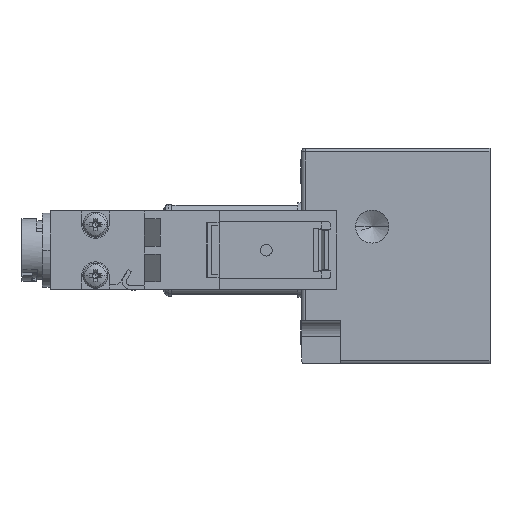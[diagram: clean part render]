
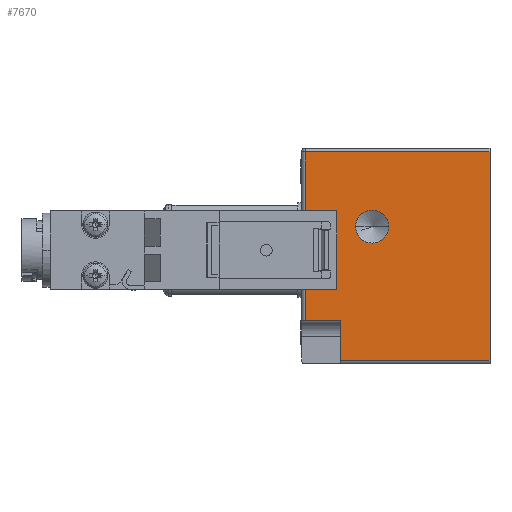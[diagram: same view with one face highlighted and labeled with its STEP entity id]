
A CAD part, left-side view. The second image highlights one B-rep face of the part: STEP entity #7670.
In plain terms, the highlighted planar face has unit normal (-1, 0, 0).
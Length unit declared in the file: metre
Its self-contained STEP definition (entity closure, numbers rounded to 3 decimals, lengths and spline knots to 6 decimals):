
#131 = DIRECTION ( 'NONE',  ( 0., 0., -1. ) ) ;
#413 = DIRECTION ( 'NONE',  ( 0., 1., 0. ) ) ;
#1442 = DIRECTION ( 'NONE',  ( 0., -1., 0. ) ) ;
#1998 = VERTEX_POINT ( 'NONE', #8689 ) ;
#2433 = VERTEX_POINT ( 'NONE', #18515 ) ;
#2670 = EDGE_CURVE ( 'NONE', #9093, #12384, #12615, .T. ) ;
#3296 = CARTESIAN_POINT ( 'NONE',  ( -0.0225, -0.0111, 0.003 ) ) ;
#3747 = DIRECTION ( 'NONE',  ( -1., 0., 0. ) ) ;
#3765 = ORIENTED_EDGE ( 'NONE', *, *, #15356, .T. ) ;
#3989 = PLANE ( 'NONE',  #13630 ) ;
#4082 = EDGE_CURVE ( 'NONE', #2433, #18274, #9530, .T. ) ;
#4414 = CARTESIAN_POINT ( 'NONE',  ( -0.0225, -0.024, -0.00075 ) ) ;
#4579 = DIRECTION ( 'NONE',  ( 0., 0., 1. ) ) ;
#4863 = EDGE_CURVE ( 'NONE', #14959, #18077, #17512, .T. ) ;
#5765 = CARTESIAN_POINT ( 'NONE',  ( -0.0225, -0.01225, -0.009 ) ) ;
#6150 = EDGE_CURVE ( 'NONE', #18274, #2433, #15085, .T. ) ;
#6632 = EDGE_CURVE ( 'NONE', #1998, #9093, #13655, .T. ) ;
#7094 = DIRECTION ( 'NONE',  ( -1., 0., 0. ) ) ;
#7293 = ORIENTED_EDGE ( 'NONE', *, *, #6632, .T. ) ;
#7581 = LINE ( 'NONE', #18399, #18600 ) ;
#7670 = ADVANCED_FACE ( 'NONE', ( #10137, #17162 ), #3989, .T. ) ;
#7758 = DIRECTION ( 'NONE',  ( 0., -1., 0. ) ) ;
#8689 = CARTESIAN_POINT ( 'NONE',  ( -0.0225, -0.005, -0.014 ) ) ;
#8918 = CARTESIAN_POINT ( 'NONE',  ( -0.0225, -0.0005, -0.009 ) ) ;
#9093 = VERTEX_POINT ( 'NONE', #16572 ) ;
#9223 = LINE ( 'NONE', #5765, #12718 ) ;
#9530 = CIRCLE ( 'NONE', #10641, 0.0021 ) ;
#9551 = ORIENTED_EDGE ( 'NONE', *, *, #2670, .T. ) ;
#10137 = FACE_BOUND ( 'NONE', #14478, .T. ) ;
#10190 = ORIENTED_EDGE ( 'NONE', *, *, #6150, .F. ) ;
#10435 = DIRECTION ( 'NONE',  ( -1., 0., 0. ) ) ;
#10504 = AXIS2_PLACEMENT_3D ( 'NONE', #12724, #3747, #14218 ) ;
#10641 = AXIS2_PLACEMENT_3D ( 'NONE', #19428, #10435, #1442 ) ;
#10718 = CARTESIAN_POINT ( 'NONE',  ( -0.0225, -0.0005, -0.00075 ) ) ;
#11104 = ORIENTED_EDGE ( 'NONE', *, *, #11454, .T. ) ;
#11210 = LINE ( 'NONE', #12075, #11689 ) ;
#11454 = EDGE_CURVE ( 'NONE', #18077, #14848, #9223, .T. ) ;
#11689 = VECTOR ( 'NONE', #131, 1. ) ;
#11693 = VECTOR ( 'NONE', #4579, 1. ) ;
#11993 = EDGE_LOOP ( 'NONE', ( #18801, #16821, #11104, #3765, #7293, #9551 ) ) ;
#12075 = CARTESIAN_POINT ( 'NONE',  ( -0.0225, -0.005, -0.00075 ) ) ;
#12192 = CARTESIAN_POINT ( 'NONE',  ( -0.0225, -0.01225, -0.014 ) ) ;
#12226 = DIRECTION ( 'NONE',  ( 0., 0., -1. ) ) ;
#12384 = VERTEX_POINT ( 'NONE', #15190 ) ;
#12615 = LINE ( 'NONE', #4414, #11693 ) ;
#12718 = VECTOR ( 'NONE', #14717, 1. ) ;
#12724 = CARTESIAN_POINT ( 'NONE',  ( -0.0225, -0.009, 0.003 ) ) ;
#13032 = CARTESIAN_POINT ( 'NONE',  ( -0.0225, -0.024, -0.014 ) ) ;
#13630 = AXIS2_PLACEMENT_3D ( 'NONE', #13032, #7094, #17569 ) ;
#13655 = LINE ( 'NONE', #12192, #17202 ) ;
#13908 = CARTESIAN_POINT ( 'NONE',  ( -0.0225, -0.0005, 0.0125 ) ) ;
#14218 = DIRECTION ( 'NONE',  ( 0., -1., 0. ) ) ;
#14478 = EDGE_LOOP ( 'NONE', ( #10190, #16450 ) ) ;
#14717 = DIRECTION ( 'NONE',  ( 0., -1., 0. ) ) ;
#14848 = VERTEX_POINT ( 'NONE', #15151 ) ;
#14959 = VERTEX_POINT ( 'NONE', #13908 ) ;
#15085 = CIRCLE ( 'NONE', #10504, 0.0021 ) ;
#15151 = CARTESIAN_POINT ( 'NONE',  ( -0.0225, -0.005, -0.009 ) ) ;
#15190 = CARTESIAN_POINT ( 'NONE',  ( -0.0225, -0.024, 0.0125 ) ) ;
#15356 = EDGE_CURVE ( 'NONE', #14848, #1998, #11210, .T. ) ;
#16450 = ORIENTED_EDGE ( 'NONE', *, *, #4082, .F. ) ;
#16572 = CARTESIAN_POINT ( 'NONE',  ( -0.0225, -0.024, -0.014 ) ) ;
#16821 = ORIENTED_EDGE ( 'NONE', *, *, #4863, .T. ) ;
#17027 = VECTOR ( 'NONE', #12226, 1. ) ;
#17162 = FACE_OUTER_BOUND ( 'NONE', #11993, .T. ) ;
#17202 = VECTOR ( 'NONE', #7758, 1. ) ;
#17512 = LINE ( 'NONE', #10718, #17027 ) ;
#17569 = DIRECTION ( 'NONE',  ( 0., 0., 1. ) ) ;
#17639 = EDGE_CURVE ( 'NONE', #12384, #14959, #7581, .T. ) ;
#18077 = VERTEX_POINT ( 'NONE', #8918 ) ;
#18274 = VERTEX_POINT ( 'NONE', #3296 ) ;
#18399 = CARTESIAN_POINT ( 'NONE',  ( -0.0225, -0.01225, 0.0125 ) ) ;
#18515 = CARTESIAN_POINT ( 'NONE',  ( -0.0225, -0.0069, 0.003 ) ) ;
#18600 = VECTOR ( 'NONE', #413, 1. ) ;
#18801 = ORIENTED_EDGE ( 'NONE', *, *, #17639, .T. ) ;
#19428 = CARTESIAN_POINT ( 'NONE',  ( -0.0225, -0.009, 0.003 ) ) ;
